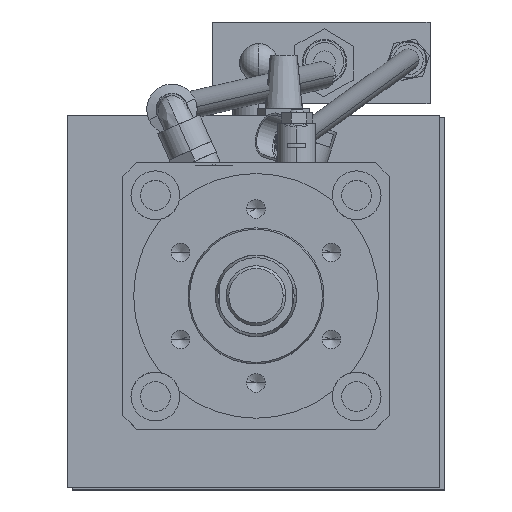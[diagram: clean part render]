
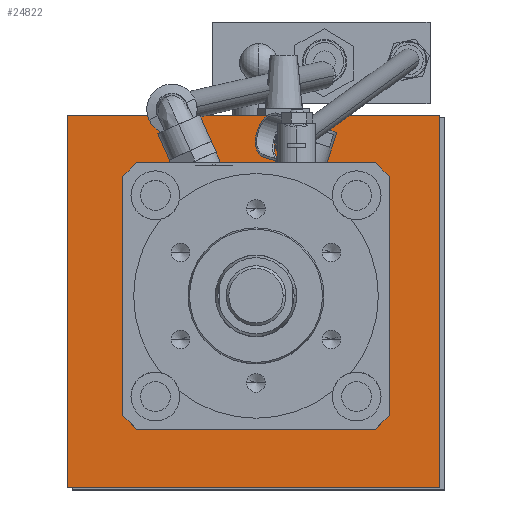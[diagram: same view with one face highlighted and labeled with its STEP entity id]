
A CAD part, top view. The second image highlights one B-rep face of the part: STEP entity #24822.
In plain terms, the highlighted planar face has unit normal (0, 0, 1).
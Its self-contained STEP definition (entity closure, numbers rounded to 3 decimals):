
#280 = EDGE_CURVE ( 'NONE', #2295, #5972, #8008, .T. ) ;
#775 = DIRECTION ( 'NONE',  ( -1., 0., 0. ) ) ;
#991 = DIRECTION ( 'NONE',  ( -1., 0., 0. ) ) ;
#1189 = CARTESIAN_POINT ( 'NONE',  ( 719.403, -2008.547, -1295.558 ) ) ;
#1354 = LINE ( 'NONE', #24003, #13313 ) ;
#2295 = VERTEX_POINT ( 'NONE', #15346 ) ;
#3469 = DIRECTION ( 'NONE',  ( 1., 0., 0. ) ) ;
#3826 = DIRECTION ( 'NONE',  ( 0., 1., 0. ) ) ;
#4798 = EDGE_CURVE ( 'NONE', #5516, #2295, #1354, .T. ) ;
#5086 = FACE_OUTER_BOUND ( 'NONE', #25524, .T. ) ;
#5516 = VERTEX_POINT ( 'NONE', #17675 ) ;
#5892 = CARTESIAN_POINT ( 'NONE',  ( 582.403, -2008.547, -1295.558 ) ) ;
#5972 = VERTEX_POINT ( 'NONE', #1189 ) ;
#6178 = EDGE_CURVE ( 'NONE', #7033, #5516, #14095, .T. ) ;
#6530 = ORIENTED_EDGE ( 'NONE', *, *, #21289, .F. ) ;
#7033 = VERTEX_POINT ( 'NONE', #5892 ) ;
#7433 = VECTOR ( 'NONE', #775, 1000. ) ;
#7740 = CARTESIAN_POINT ( 'NONE',  ( 582.403, -1871.547, -1295.558 ) ) ;
#8008 = LINE ( 'NONE', #17797, #15474 ) ;
#11027 = CARTESIAN_POINT ( 'NONE',  ( 664.403, -2453.83, -1295.558 ) ) ;
#11182 = VECTOR ( 'NONE', #3826, 1000. ) ;
#13313 = VECTOR ( 'NONE', #3469, 1000. ) ;
#14095 = LINE ( 'NONE', #7740, #11182 ) ;
#15346 = CARTESIAN_POINT ( 'NONE',  ( 719.403, -1871.547, -1295.558 ) ) ;
#15474 = VECTOR ( 'NONE', #24442, 1000. ) ;
#17675 = CARTESIAN_POINT ( 'NONE',  ( 582.403, -1871.547, -1295.558 ) ) ;
#17797 = CARTESIAN_POINT ( 'NONE',  ( 719.403, -1871.547, -1295.558 ) ) ;
#18900 = CARTESIAN_POINT ( 'NONE',  ( 719.403, -2008.547, -1295.558 ) ) ;
#21255 = DIRECTION ( 'NONE',  ( 0., 0., -1. ) ) ;
#21289 = EDGE_CURVE ( 'NONE', #5972, #7033, #23153, .T. ) ;
#21842 = ORIENTED_EDGE ( 'NONE', *, *, #6178, .F. ) ;
#22086 = ORIENTED_EDGE ( 'NONE', *, *, #4798, .F. ) ;
#23153 = LINE ( 'NONE', #18900, #7433 ) ;
#24003 = CARTESIAN_POINT ( 'NONE',  ( 719.403, -1871.547, -1295.558 ) ) ;
#24442 = DIRECTION ( 'NONE',  ( 0., -1., 0. ) ) ;
#24822 = ADVANCED_FACE ( 'NONE', ( #5086 ), #25252, .F. ) ;
#25252 = PLANE ( 'NONE',  #25725 ) ;
#25404 = ORIENTED_EDGE ( 'NONE', *, *, #280, .F. ) ;
#25524 = EDGE_LOOP ( 'NONE', ( #25404, #22086, #21842, #6530 ) ) ;
#25725 = AXIS2_PLACEMENT_3D ( 'NONE', #11027, #21255, #991 ) ;
